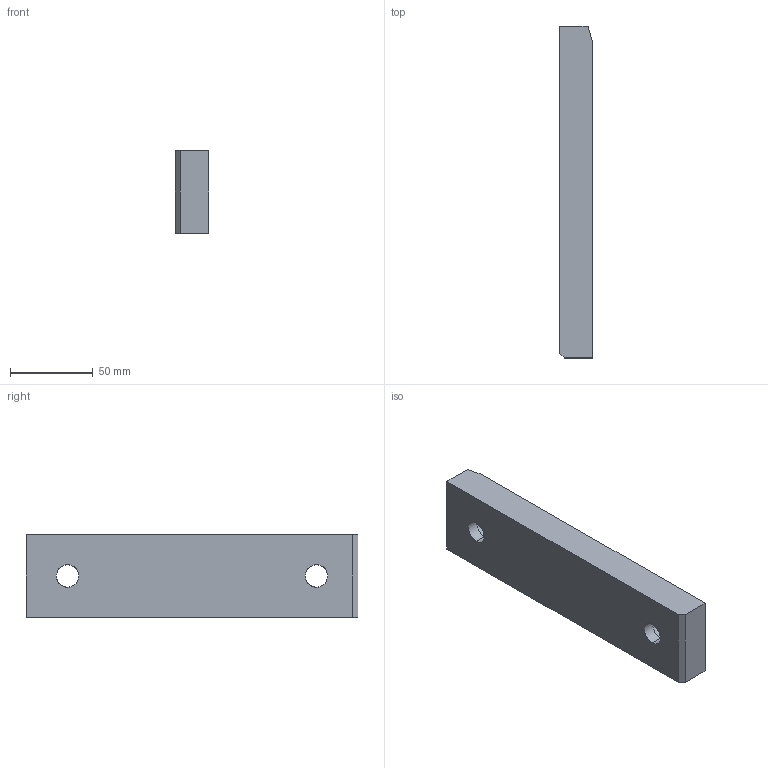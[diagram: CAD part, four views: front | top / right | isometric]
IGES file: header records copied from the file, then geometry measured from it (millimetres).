
Start section: START RECORD GO HERE.
Global section: file name: A915-50X200.igs; native system: DASSAULT SYSTEMES CATIA V5 R20 - www.3ds.com; preprocessor: CATIA Version 5 Release 20 ; author: Utente; organization: NB04-ASUS; date: 20200407.204606; units: millimetre
Bounding box: 20 x 200 x 50 mm (x, y, z)
Surface area: 31260.6 mm2 (no closed solid volume)
Topology: 0 solids, 0 shells, 23 faces, 106 edges, 106 vertices
Faces by surface type: revolution 13, extrusion 10
